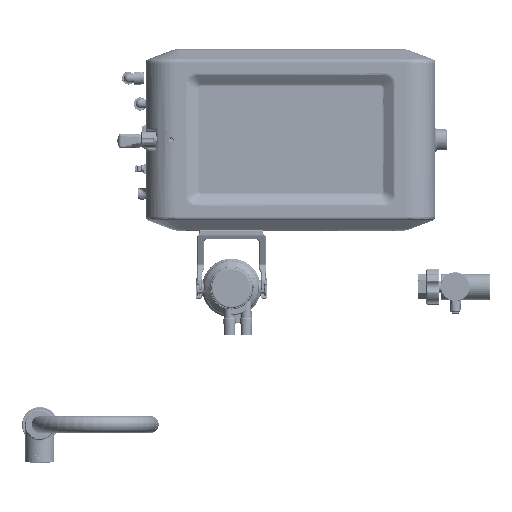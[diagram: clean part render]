
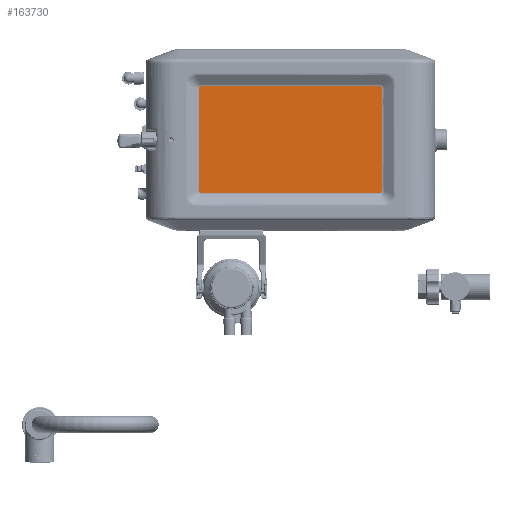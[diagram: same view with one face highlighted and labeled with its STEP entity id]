
A CAD part, top view. The second image highlights one B-rep face of the part: STEP entity #163730.
In plain terms, the highlighted planar face has unit normal (0, 0, 1).
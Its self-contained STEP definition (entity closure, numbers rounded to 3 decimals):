
#2276=PLANE('',#223926);
#19301=LINE('',#375063,#31086);
#31086=VECTOR('',#251980,1000.);
#65992=ORIENTED_EDGE('',*,*,#101361,.F.);
#65993=ORIENTED_EDGE('',*,*,#101359,.F.);
#65994=ORIENTED_EDGE('',*,*,#101363,.F.);
#65995=ORIENTED_EDGE('',*,*,#101320,.F.);
#65996=ORIENTED_EDGE('',*,*,#101323,.F.);
#65997=ORIENTED_EDGE('',*,*,#101334,.F.);
#65998=ORIENTED_EDGE('',*,*,#101337,.F.);
#65999=ORIENTED_EDGE('',*,*,#101362,.F.);
#101320=EDGE_CURVE('',#120461,#120460,#131979,.F.);
#101323=EDGE_CURVE('',#120463,#120461,#131981,.F.);
#101334=EDGE_CURVE('',#120469,#120463,#131987,.T.);
#101337=EDGE_CURVE('',#120471,#120469,#19301,.T.);
#101359=EDGE_CURVE('',#120484,#120483,#132001,.F.);
#101361=EDGE_CURVE('',#120483,#120485,#132003,.F.);
#101362=EDGE_CURVE('',#120485,#120471,#132004,.F.);
#101363=EDGE_CURVE('',#120460,#120484,#132005,.F.);
#120460=VERTEX_POINT('',#374448);
#120461=VERTEX_POINT('',#374453);
#120463=VERTEX_POINT('',#374528);
#120469=VERTEX_POINT('',#375039);
#120471=VERTEX_POINT('',#375062);
#120483=VERTEX_POINT('',#375973);
#120484=VERTEX_POINT('',#375978);
#120485=VERTEX_POINT('',#375996);
#131979=B_SPLINE_CURVE_WITH_KNOTS('',3,(#374454,#374455,#374456,#374457,
#374458,#374459,#374460,#374461,#374462,#374463,#374464,#374465),
 .UNSPECIFIED.,.F.,.F.,(4,1,1,1,1,1,1,1,1,4),(0.,0.125,0.188,0.25,0.313,
0.375,0.5,0.625,0.75,1.),.UNSPECIFIED.);
#131981=B_SPLINE_CURVE_WITH_KNOTS('',3,(#374529,#374530,#374531,#374532),
 .UNSPECIFIED.,.F.,.F.,(4,4),(0.,1.),.UNSPECIFIED.);
#131987=B_SPLINE_CURVE_WITH_KNOTS('',3,(#375040,#375041,#375042,#375043,
#375044,#375045,#375046,#375047,#375048,#375049,#375050,#375051,#375052,
#375053,#375054,#375055,#375056,#375057),.UNSPECIFIED.,.F.,.F.,(4,1,1,1,
1,1,1,1,1,1,1,1,1,1,1,4),(0.,0.067,0.133,0.2,0.267,
0.333,0.4,0.467,0.533,0.6,0.667,
0.733,0.8,0.867,0.933,1.),.UNSPECIFIED.);
#132001=B_SPLINE_CURVE_WITH_KNOTS('',3,(#375979,#375980,#375981,#375982,
#375983,#375984,#375985,#375986,#375987,#375988,#375989,#375990),
 .UNSPECIFIED.,.F.,.F.,(4,1,1,1,1,1,1,1,1,4),(0.,0.125,0.187,
0.25,0.312,0.375,0.5,
0.625,0.75,1.),.UNSPECIFIED.);
#132003=B_SPLINE_CURVE_WITH_KNOTS('',3,(#375997,#375998,#375999,#376000),
 .UNSPECIFIED.,.F.,.F.,(4,4),(0.,1.),.UNSPECIFIED.);
#132004=B_SPLINE_CURVE_WITH_KNOTS('',3,(#376085,#376086,#376087,#376088,
#376089,#376090,#376091),.UNSPECIFIED.,.F.,.F.,(4,1,1,1,4),(0.,0.25,0.5,
0.75,1.),.UNSPECIFIED.);
#132005=B_SPLINE_CURVE_WITH_KNOTS('',3,(#376093,#376094,#376095,#376096),
 .UNSPECIFIED.,.F.,.F.,(4,4),(0.,1.),.UNSPECIFIED.);
#140233=EDGE_LOOP('',(#65992,#65993,#65994,#65995,#65996,#65997,#65998,
#65999));
#151072=FACE_BOUND('',#140233,.T.);
#163730=ADVANCED_FACE('',(#151072),#2276,.T.);
#223926=AXIS2_PLACEMENT_3D('',#376092,#252003,#252004);
#251980=DIRECTION('',(1.,0.,0.));
#252003=DIRECTION('',(0.,0.,1.));
#252004=DIRECTION('',(0.,1.,0.));
#374448=CARTESIAN_POINT('',(470.703,321.519,-475.7));
#374453=CARTESIAN_POINT('',(472.886,323.673,-475.7));
#374454=CARTESIAN_POINT('',(470.703,321.519,-475.7));
#374455=CARTESIAN_POINT('',(470.835,321.519,-475.7));
#374456=CARTESIAN_POINT('',(471.072,321.559,-475.7));
#374457=CARTESIAN_POINT('',(471.309,321.643,-475.7));
#374458=CARTESIAN_POINT('',(471.522,321.742,-475.7));
#374459=CARTESIAN_POINT('',(471.67,321.825,-475.7));
#374460=CARTESIAN_POINT('',(471.929,321.988,-475.7));
#374461=CARTESIAN_POINT('',(472.177,322.172,-475.7));
#374462=CARTESIAN_POINT('',(472.48,322.491,-475.7));
#374463=CARTESIAN_POINT('',(472.762,322.934,-475.7));
#374464=CARTESIAN_POINT('',(472.886,323.385,-475.7));
#374465=CARTESIAN_POINT('',(472.886,323.673,-475.7));
#374528=CARTESIAN_POINT('',(472.886,466.245,-475.7));
#374529=CARTESIAN_POINT('',(472.886,323.673,-475.7));
#374530=CARTESIAN_POINT('',(472.886,371.197,-475.7));
#374531=CARTESIAN_POINT('',(472.886,418.721,-475.7));
#374532=CARTESIAN_POINT('',(472.886,466.245,-475.7));
#375039=CARTESIAN_POINT('',(470.686,468.445,-475.7));
#375040=CARTESIAN_POINT('',(470.686,468.445,-475.7));
#375041=CARTESIAN_POINT('',(470.764,468.445,-475.7));
#375042=CARTESIAN_POINT('',(470.92,468.438,-475.7));
#375043=CARTESIAN_POINT('',(471.15,468.404,-475.7));
#375044=CARTESIAN_POINT('',(471.376,468.348,-475.7));
#375045=CARTESIAN_POINT('',(471.593,468.269,-475.7));
#375046=CARTESIAN_POINT('',(471.801,468.167,-475.7));
#375047=CARTESIAN_POINT('',(471.997,468.043,-475.7));
#375048=CARTESIAN_POINT('',(472.177,467.899,-475.7));
#375049=CARTESIAN_POINT('',(472.341,467.736,-475.7));
#375050=CARTESIAN_POINT('',(472.485,467.555,-475.7));
#375051=CARTESIAN_POINT('',(472.609,467.359,-475.7));
#375052=CARTESIAN_POINT('',(472.71,467.151,-475.7));
#375053=CARTESIAN_POINT('',(472.789,466.933,-475.7));
#375054=CARTESIAN_POINT('',(472.845,466.708,-475.7));
#375055=CARTESIAN_POINT('',(472.879,466.478,-475.7));
#375056=CARTESIAN_POINT('',(472.886,466.323,-475.7));
#375057=CARTESIAN_POINT('',(472.886,466.245,-475.7));
#375062=CARTESIAN_POINT('',(222.114,468.445,-475.7));
#375063=CARTESIAN_POINT('',(222.114,468.445,-475.7));
#375973=CARTESIAN_POINT('',(219.96,323.657,-475.7));
#375978=CARTESIAN_POINT('',(222.114,321.473,-475.7));
#375979=CARTESIAN_POINT('',(219.96,323.657,-475.7));
#375980=CARTESIAN_POINT('',(219.961,323.52,-475.7));
#375981=CARTESIAN_POINT('',(219.997,323.297,-475.7));
#375982=CARTESIAN_POINT('',(220.085,323.044,-475.7));
#375983=CARTESIAN_POINT('',(220.182,322.838,-475.7));
#375984=CARTESIAN_POINT('',(220.266,322.688,-475.7));
#375985=CARTESIAN_POINT('',(220.429,322.43,-475.7));
#375986=CARTESIAN_POINT('',(220.613,322.182,-475.7));
#375987=CARTESIAN_POINT('',(220.932,321.879,-475.7));
#375988=CARTESIAN_POINT('',(221.375,321.598,-475.7));
#375989=CARTESIAN_POINT('',(221.824,321.473,-475.7));
#375990=CARTESIAN_POINT('',(222.114,321.473,-475.7));
#375996=CARTESIAN_POINT('',(219.914,466.245,-475.701));
#375997=CARTESIAN_POINT('',(219.914,466.245,-475.7));
#375998=CARTESIAN_POINT('',(219.929,418.715,-475.7));
#375999=CARTESIAN_POINT('',(219.944,371.186,-475.7));
#376000=CARTESIAN_POINT('',(219.96,323.657,-475.7));
#376085=CARTESIAN_POINT('',(222.114,468.445,-475.7));
#376086=CARTESIAN_POINT('',(221.814,468.445,-475.7));
#376087=CARTESIAN_POINT('',(221.245,468.341,-475.7));
#376088=CARTESIAN_POINT('',(220.498,467.862,-475.7));
#376089=CARTESIAN_POINT('',(220.018,467.115,-475.7));
#376090=CARTESIAN_POINT('',(219.914,466.545,-475.7));
#376091=CARTESIAN_POINT('',(219.914,466.245,-475.7));
#376092=CARTESIAN_POINT('',(146.4,394.959,-475.7));
#376093=CARTESIAN_POINT('',(222.114,321.473,-475.7));
#376094=CARTESIAN_POINT('',(304.977,321.488,-475.7));
#376095=CARTESIAN_POINT('',(387.84,321.504,-475.7));
#376096=CARTESIAN_POINT('',(470.703,321.519,-475.7));
